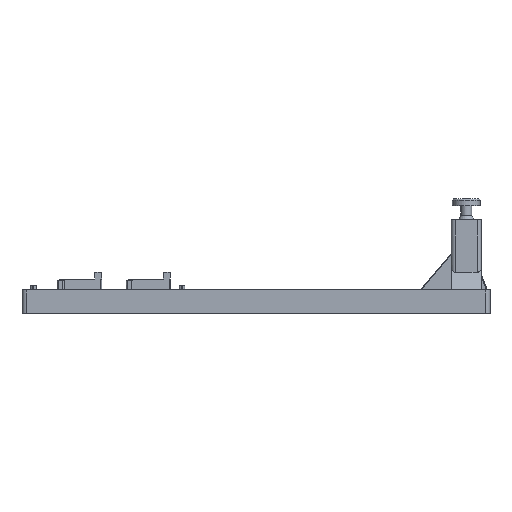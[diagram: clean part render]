
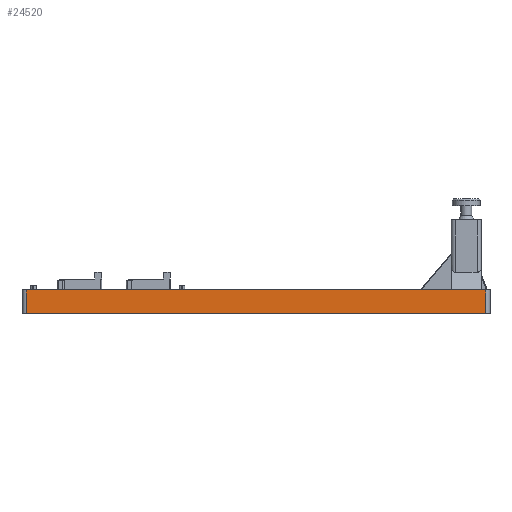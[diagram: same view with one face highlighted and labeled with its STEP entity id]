
A CAD part, front view. The second image highlights one B-rep face of the part: STEP entity #24520.
In plain terms, the highlighted planar face has unit normal (0, -1, 0).
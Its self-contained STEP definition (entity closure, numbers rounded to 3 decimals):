
#564 = PLANE('',#565);
#565 = AXIS2_PLACEMENT_3D('',#566,#567,#568);
#566 = CARTESIAN_POINT('',(70.,-5.6,10.8));
#567 = DIRECTION('',(0.,0.,1.));
#568 = DIRECTION('',(1.,0.,-0.));
#2577 = CYLINDRICAL_SURFACE('',#2578,2.);
#2578 = AXIS2_PLACEMENT_3D('',#2579,#2580,#2581);
#2579 = CARTESIAN_POINT('',(72.,-3.6,0.));
#2580 = DIRECTION('',(0.,0.,1.));
#2581 = DIRECTION('',(-1.,-0.,0.));
#2717 = VERTEX_POINT('',#2718);
#2718 = CARTESIAN_POINT('',(72.,-5.6,0.));
#2733 = PLANE('',#2734);
#2734 = AXIS2_PLACEMENT_3D('',#2735,#2736,#2737);
#2735 = CARTESIAN_POINT('',(70.,-5.6,0.));
#2736 = DIRECTION('',(0.,0.,1.));
#2737 = DIRECTION('',(1.,0.,-0.));
#2745 = EDGE_CURVE('',#2717,#2746,#2748,.T.);
#2746 = VERTEX_POINT('',#2747);
#2747 = CARTESIAN_POINT('',(72.,-5.6,10.8));
#2748 = SURFACE_CURVE('',#2749,(#2753,#2760),.PCURVE_S1.);
#2749 = LINE('',#2750,#2751);
#2750 = CARTESIAN_POINT('',(72.,-5.6,0.));
#2751 = VECTOR('',#2752,1.);
#2752 = DIRECTION('',(0.,0.,1.));
#2753 = PCURVE('',#2577,#2754);
#2754 = DEFINITIONAL_REPRESENTATION('',(#2755),#2759);
#2755 = LINE('',#2756,#2757);
#2756 = CARTESIAN_POINT('',(1.571,0.));
#2757 = VECTOR('',#2758,1.);
#2758 = DIRECTION('',(0.,1.));
#2759 = ( GEOMETRIC_REPRESENTATION_CONTEXT(2) 
PARAMETRIC_REPRESENTATION_CONTEXT() REPRESENTATION_CONTEXT('2D SPACE',''
  ) );
#2760 = PCURVE('',#2761,#2766);
#2761 = PLANE('',#2762);
#2762 = AXIS2_PLACEMENT_3D('',#2763,#2764,#2765);
#2763 = CARTESIAN_POINT('',(70.,-5.6,0.));
#2764 = DIRECTION('',(0.,1.,0.));
#2765 = DIRECTION('',(0.,-0.,1.));
#2766 = DEFINITIONAL_REPRESENTATION('',(#2767),#2771);
#2767 = LINE('',#2768,#2769);
#2768 = CARTESIAN_POINT('',(0.,2.));
#2769 = VECTOR('',#2770,1.);
#2770 = DIRECTION('',(1.,0.));
#2771 = ( GEOMETRIC_REPRESENTATION_CONTEXT(2) 
PARAMETRIC_REPRESENTATION_CONTEXT() REPRESENTATION_CONTEXT('2D SPACE',''
  ) );
#2865 = EDGE_CURVE('',#2866,#2717,#2868,.T.);
#2866 = VERTEX_POINT('',#2867);
#2867 = CARTESIAN_POINT('',(285.639,-5.6,0.));
#2868 = SURFACE_CURVE('',#2869,(#2873,#2880),.PCURVE_S1.);
#2869 = LINE('',#2870,#2871);
#2870 = CARTESIAN_POINT('',(285.639,-5.6,0.));
#2871 = VECTOR('',#2872,1.);
#2872 = DIRECTION('',(-1.,0.,0.));
#2873 = PCURVE('',#2733,#2874);
#2874 = DEFINITIONAL_REPRESENTATION('',(#2875),#2879);
#2875 = LINE('',#2876,#2877);
#2876 = CARTESIAN_POINT('',(215.639,0.));
#2877 = VECTOR('',#2878,1.);
#2878 = DIRECTION('',(-1.,0.));
#2879 = ( GEOMETRIC_REPRESENTATION_CONTEXT(2) 
PARAMETRIC_REPRESENTATION_CONTEXT() REPRESENTATION_CONTEXT('2D SPACE',''
  ) );
#2880 = PCURVE('',#2761,#2881);
#2881 = DEFINITIONAL_REPRESENTATION('',(#2882),#2886);
#2882 = LINE('',#2883,#2884);
#2883 = CARTESIAN_POINT('',(0.,215.639));
#2884 = VECTOR('',#2885,1.);
#2885 = DIRECTION('',(0.,-1.));
#2886 = ( GEOMETRIC_REPRESENTATION_CONTEXT(2) 
PARAMETRIC_REPRESENTATION_CONTEXT() REPRESENTATION_CONTEXT('2D SPACE',''
  ) );
#2909 = CYLINDRICAL_SURFACE('',#2910,2.);
#2910 = AXIS2_PLACEMENT_3D('',#2911,#2912,#2913);
#2911 = CARTESIAN_POINT('',(285.639,-3.6,0.));
#2912 = DIRECTION('',(0.,0.,1.));
#2913 = DIRECTION('',(1.,0.,-0.));
#24471 = EDGE_CURVE('',#2866,#24472,#24474,.T.);
#24472 = VERTEX_POINT('',#24473);
#24473 = CARTESIAN_POINT('',(285.639,-5.6,10.8));
#24474 = SURFACE_CURVE('',#24475,(#24479,#24486),.PCURVE_S1.);
#24475 = LINE('',#24476,#24477);
#24476 = CARTESIAN_POINT('',(285.639,-5.6,0.));
#24477 = VECTOR('',#24478,1.);
#24478 = DIRECTION('',(0.,0.,1.));
#24479 = PCURVE('',#2909,#24480);
#24480 = DEFINITIONAL_REPRESENTATION('',(#24481),#24485);
#24481 = LINE('',#24482,#24483);
#24482 = CARTESIAN_POINT('',(-1.571,0.));
#24483 = VECTOR('',#24484,1.);
#24484 = DIRECTION('',(-0.,1.));
#24485 = ( GEOMETRIC_REPRESENTATION_CONTEXT(2) 
PARAMETRIC_REPRESENTATION_CONTEXT() REPRESENTATION_CONTEXT('2D SPACE',''
  ) );
#24486 = PCURVE('',#2761,#24487);
#24487 = DEFINITIONAL_REPRESENTATION('',(#24488),#24492);
#24488 = LINE('',#24489,#24490);
#24489 = CARTESIAN_POINT('',(0.,215.639));
#24490 = VECTOR('',#24491,1.);
#24491 = DIRECTION('',(1.,0.));
#24492 = ( GEOMETRIC_REPRESENTATION_CONTEXT(2) 
PARAMETRIC_REPRESENTATION_CONTEXT() REPRESENTATION_CONTEXT('2D SPACE',''
  ) );
#24520 = ADVANCED_FACE('',(#24521),#2761,.F.);
#24521 = FACE_BOUND('',#24522,.F.);
#24522 = EDGE_LOOP('',(#24523,#24524,#24545,#24546));
#24523 = ORIENTED_EDGE('',*,*,#2745,.T.);
#24524 = ORIENTED_EDGE('',*,*,#24525,.T.);
#24525 = EDGE_CURVE('',#2746,#24472,#24526,.T.);
#24526 = SURFACE_CURVE('',#24527,(#24531,#24538),.PCURVE_S1.);
#24527 = LINE('',#24528,#24529);
#24528 = CARTESIAN_POINT('',(72.,-5.6,10.8));
#24529 = VECTOR('',#24530,1.);
#24530 = DIRECTION('',(1.,0.,0.));
#24531 = PCURVE('',#2761,#24532);
#24532 = DEFINITIONAL_REPRESENTATION('',(#24533),#24537);
#24533 = LINE('',#24534,#24535);
#24534 = CARTESIAN_POINT('',(10.8,2.));
#24535 = VECTOR('',#24536,1.);
#24536 = DIRECTION('',(0.,1.));
#24537 = ( GEOMETRIC_REPRESENTATION_CONTEXT(2) 
PARAMETRIC_REPRESENTATION_CONTEXT() REPRESENTATION_CONTEXT('2D SPACE',''
  ) );
#24538 = PCURVE('',#564,#24539);
#24539 = DEFINITIONAL_REPRESENTATION('',(#24540),#24544);
#24540 = LINE('',#24541,#24542);
#24541 = CARTESIAN_POINT('',(2.,0.));
#24542 = VECTOR('',#24543,1.);
#24543 = DIRECTION('',(1.,0.));
#24544 = ( GEOMETRIC_REPRESENTATION_CONTEXT(2) 
PARAMETRIC_REPRESENTATION_CONTEXT() REPRESENTATION_CONTEXT('2D SPACE',''
  ) );
#24545 = ORIENTED_EDGE('',*,*,#24471,.F.);
#24546 = ORIENTED_EDGE('',*,*,#2865,.T.);
